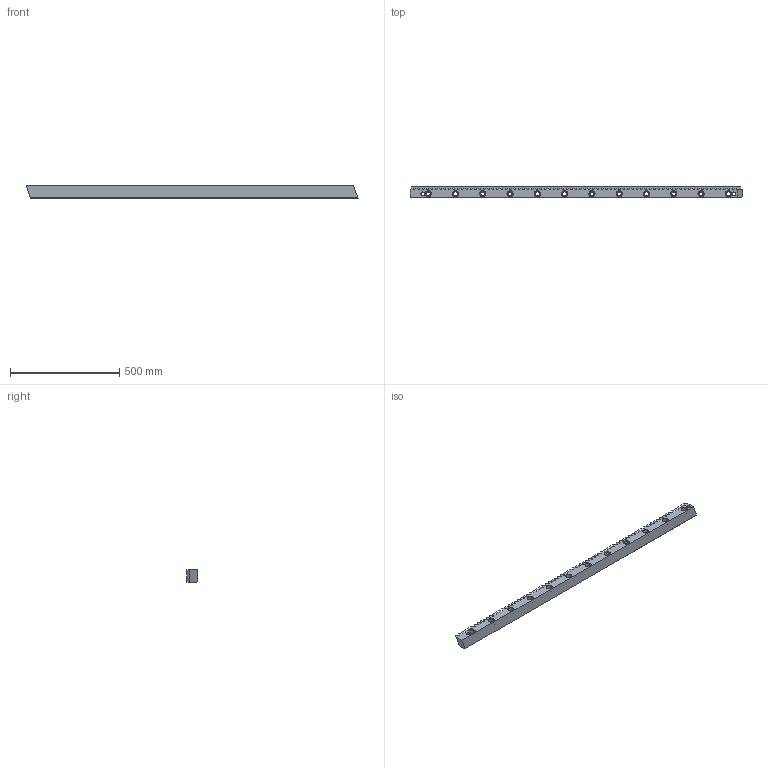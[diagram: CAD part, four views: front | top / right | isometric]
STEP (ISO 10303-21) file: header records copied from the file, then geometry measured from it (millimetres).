
FILE_DESCRIPTION (( 'STEP AP214' ), '1' );
FILE_NAME ('1HR16R060150H.STEP', '2021-12-06T11:44:18', ( '' ), ( '' ), 'SwSTEP 2.0', 'SolidWorks 2021', '' );
FILE_SCHEMA (( 'AUTOMOTIVE_DESIGN' ));
Length unit declared in the file: millimetre
Products named in the file (1): 1HR16R060150H
Bounding box: 1520.93 x 49 x 59 mm (x, y, z)
Volume: 3503378.4 mm3; surface area: 434942.8 mm2
Topology: 1 solids, 1 shells, 873 faces, 2525 edges, 1666 vertices
Faces by surface type: plane 469, cylinder 352, cone 52
Entity records: 28269 total; most frequent: CARTESIAN_POINT 6865, ORIENTED_EDGE 5050, DIRECTION 3829, EDGE_CURVE 2525, VECTOR 1769, LINE 1769, VERTEX_POINT 1666, AXIS2_PLACEMENT_3D 1030
